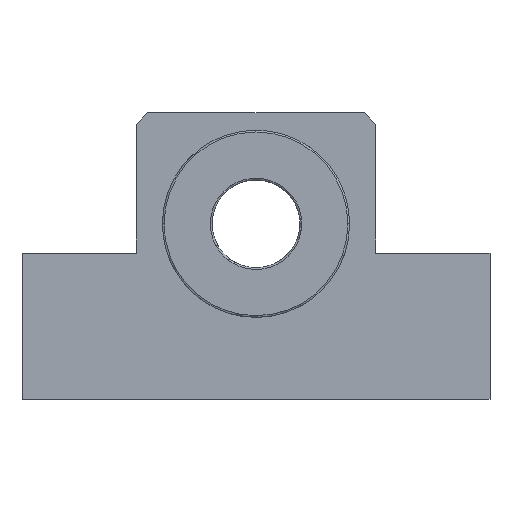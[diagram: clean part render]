
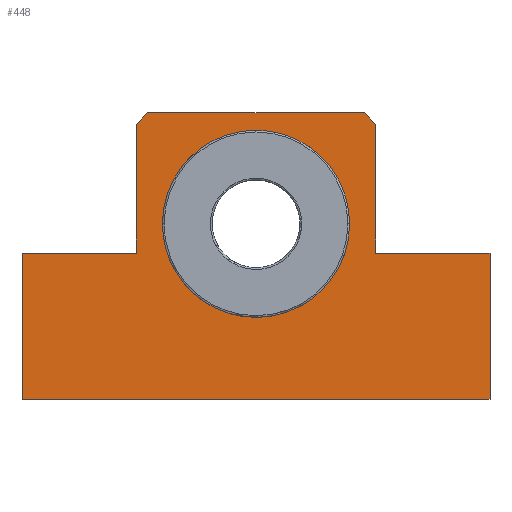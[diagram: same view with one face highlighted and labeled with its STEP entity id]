
A CAD part, left-side view. The second image highlights one B-rep face of the part: STEP entity #448.
In plain terms, the highlighted planar face has unit normal (-1, 0, 0).
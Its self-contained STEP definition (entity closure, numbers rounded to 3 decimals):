
#156=CARTESIAN_POINT('Vertex',(-10.,-40.,-30.)) ;
#161=CARTESIAN_POINT('Line Origine',(-10.,0.,-30.)) ;
#165=CARTESIAN_POINT('Vertex',(-10.,40.,-30.)) ;
#260=CARTESIAN_POINT('Vertex',(-10.,40.,-5.)) ;
#265=CARTESIAN_POINT('Line Origine',(-10.,30.25,-5.)) ;
#269=CARTESIAN_POINT('Vertex',(-10.,20.5,-5.)) ;
#304=CARTESIAN_POINT('Vertex',(-10.,-40.,-5.)) ;
#309=CARTESIAN_POINT('Line Origine',(-10.,-40.,-17.5)) ;
#326=CARTESIAN_POINT('Axis2P3D Location',(-10.,0.,0.)) ;
#331=CARTESIAN_POINT('Line Origine',(-10.,-19.5,18.)) ;
#335=CARTESIAN_POINT('Vertex',(-10.,-18.5,19.)) ;
#337=CARTESIAN_POINT('Vertex',(-10.,-20.5,17.)) ;
#340=CARTESIAN_POINT('Line Origine',(-10.,0.,19.)) ;
#344=CARTESIAN_POINT('Vertex',(-10.,18.5,19.)) ;
#347=CARTESIAN_POINT('Line Origine',(-10.,19.5,18.)) ;
#351=CARTESIAN_POINT('Vertex',(-10.,20.5,17.)) ;
#354=CARTESIAN_POINT('Line Origine',(-10.,20.5,6.)) ;
#359=CARTESIAN_POINT('Line Origine',(-10.,40.,-17.5)) ;
#364=CARTESIAN_POINT('Line Origine',(-10.,-30.25,-5.)) ;
#368=CARTESIAN_POINT('Vertex',(-10.,-20.5,-5.)) ;
#371=CARTESIAN_POINT('Line Origine',(-10.,-20.5,6.)) ;
#389=CARTESIAN_POINT('Control Point',(-10.,-14.041,7.671)) ;
#390=CARTESIAN_POINT('Control Point',(-10.,-13.29,9.047)) ;
#391=CARTESIAN_POINT('Control Point',(-10.,-12.37,10.33)) ;
#392=CARTESIAN_POINT('Control Point',(-10.,-11.296,11.494)) ;
#393=CARTESIAN_POINT('Control Point',(-10.,-8.886,13.536)) ;
#394=CARTESIAN_POINT('Control Point',(-10.,-6.054,14.936)) ;
#395=CARTESIAN_POINT('Control Point',(-10.,-4.559,15.458)) ;
#396=CARTESIAN_POINT('Control Point',(-10.,-1.471,16.125)) ;
#397=CARTESIAN_POINT('Control Point',(-10.,1.686,16.028)) ;
#398=CARTESIAN_POINT('Control Point',(-10.,3.251,15.785)) ;
#399=CARTESIAN_POINT('Control Point',(-10.,6.289,14.921)) ;
#400=CARTESIAN_POINT('Control Point',(-10.,9.029,13.349)) ;
#401=CARTESIAN_POINT('Control Point',(-10.,10.296,12.399)) ;
#402=CARTESIAN_POINT('Control Point',(-10.,12.57,10.207)) ;
#403=CARTESIAN_POINT('Control Point',(-10.,14.248,7.531)) ;
#404=CARTESIAN_POINT('Control Point',(-10.,14.919,6.096)) ;
#405=CARTESIAN_POINT('Control Point',(-10.,15.894,3.091)) ;
#406=CARTESIAN_POINT('Control Point',(-10.,16.116,-0.06)) ;
#407=CARTESIAN_POINT('Control Point',(-10.,16.032,-1.641)) ;
#408=CARTESIAN_POINT('Control Point',(-10.,15.642,-3.838)) ;
#409=CARTESIAN_POINT('Control Point',(-10.,14.885,-5.922)) ;
#410=CARTESIAN_POINT('Control Point',(-10.,14.633,-6.519)) ;
#411=CARTESIAN_POINT('Control Point',(-10.,14.352,-7.103)) ;
#412=CARTESIAN_POINT('Control Point',(-10.,14.041,-7.671)) ;
#413=CARTESIAN_POINT('Vertex',(-10.,14.041,-7.671)) ;
#415=CARTESIAN_POINT('Vertex',(-10.,-14.041,7.671)) ;
#419=CARTESIAN_POINT('Control Point',(-10.,14.041,-7.671)) ;
#420=CARTESIAN_POINT('Control Point',(-10.,13.29,-9.047)) ;
#421=CARTESIAN_POINT('Control Point',(-10.,12.37,-10.33)) ;
#422=CARTESIAN_POINT('Control Point',(-10.,11.296,-11.494)) ;
#423=CARTESIAN_POINT('Control Point',(-10.,8.886,-13.536)) ;
#424=CARTESIAN_POINT('Control Point',(-10.,6.054,-14.936)) ;
#425=CARTESIAN_POINT('Control Point',(-10.,4.559,-15.458)) ;
#426=CARTESIAN_POINT('Control Point',(-10.,1.471,-16.125)) ;
#427=CARTESIAN_POINT('Control Point',(-10.,-1.686,-16.028)) ;
#428=CARTESIAN_POINT('Control Point',(-10.,-3.251,-15.785)) ;
#429=CARTESIAN_POINT('Control Point',(-10.,-6.289,-14.921)) ;
#430=CARTESIAN_POINT('Control Point',(-10.,-9.029,-13.349)) ;
#431=CARTESIAN_POINT('Control Point',(-10.,-10.296,-12.399)) ;
#432=CARTESIAN_POINT('Control Point',(-10.,-12.57,-10.207)) ;
#433=CARTESIAN_POINT('Control Point',(-10.,-14.248,-7.531)) ;
#434=CARTESIAN_POINT('Control Point',(-10.,-14.919,-6.096)) ;
#435=CARTESIAN_POINT('Control Point',(-10.,-15.894,-3.091)) ;
#436=CARTESIAN_POINT('Control Point',(-10.,-16.116,0.06)) ;
#437=CARTESIAN_POINT('Control Point',(-10.,-16.032,1.641)) ;
#438=CARTESIAN_POINT('Control Point',(-10.,-15.642,3.838)) ;
#439=CARTESIAN_POINT('Control Point',(-10.,-14.885,5.922)) ;
#440=CARTESIAN_POINT('Control Point',(-10.,-14.633,6.519)) ;
#441=CARTESIAN_POINT('Control Point',(-10.,-14.352,7.103)) ;
#442=CARTESIAN_POINT('Control Point',(-10.,-14.041,7.671)) ;
#162=DIRECTION('Vector Direction',(0.,-1.,0.)) ;
#266=DIRECTION('Vector Direction',(0.,1.,0.)) ;
#310=DIRECTION('Vector Direction',(0.,0.,1.)) ;
#327=DIRECTION('Axis2P3D Direction',(1.,0.,0.)) ;
#328=DIRECTION('Axis2P3D XDirection',(0.,1.,0.)) ;
#332=DIRECTION('Vector Direction',(0.,-0.707,-0.707)) ;
#341=DIRECTION('Vector Direction',(0.,1.,0.)) ;
#348=DIRECTION('Vector Direction',(0.,0.707,-0.707)) ;
#355=DIRECTION('Vector Direction',(0.,0.,-1.)) ;
#360=DIRECTION('Vector Direction',(0.,0.,-1.)) ;
#365=DIRECTION('Vector Direction',(0.,1.,0.)) ;
#372=DIRECTION('Vector Direction',(0.,0.,1.)) ;
#329=AXIS2_PLACEMENT_3D('Plane Axis2P3D',#326,#327,#328) ;
#377=ORIENTED_EDGE('',*,*,#339,.F.) ;
#378=ORIENTED_EDGE('',*,*,#346,.F.) ;
#379=ORIENTED_EDGE('',*,*,#353,.F.) ;
#380=ORIENTED_EDGE('',*,*,#358,.F.) ;
#381=ORIENTED_EDGE('',*,*,#271,.F.) ;
#382=ORIENTED_EDGE('',*,*,#363,.F.) ;
#383=ORIENTED_EDGE('',*,*,#167,.F.) ;
#384=ORIENTED_EDGE('',*,*,#313,.F.) ;
#385=ORIENTED_EDGE('',*,*,#370,.F.) ;
#386=ORIENTED_EDGE('',*,*,#375,.F.) ;
#445=ORIENTED_EDGE('',*,*,#417,.T.) ;
#446=ORIENTED_EDGE('',*,*,#443,.T.) ;
#447=FACE_BOUND('',#444,.T.) ;
#163=VECTOR('Line Direction',#162,1.) ;
#267=VECTOR('Line Direction',#266,1.) ;
#311=VECTOR('Line Direction',#310,1.) ;
#333=VECTOR('Line Direction',#332,1.) ;
#342=VECTOR('Line Direction',#341,1.) ;
#349=VECTOR('Line Direction',#348,1.) ;
#356=VECTOR('Line Direction',#355,1.) ;
#361=VECTOR('Line Direction',#360,1.) ;
#366=VECTOR('Line Direction',#365,1.) ;
#373=VECTOR('Line Direction',#372,1.) ;
#448=ADVANCED_FACE('EF15(H)',(#387,#447),#330,.F.) ;
#388=B_SPLINE_CURVE_WITH_KNOTS('',5,(#389,#390,#391,#392,#393,#394,#395,#396,#397,#398,#399,#400,#401,#402,#403,#404,#405,#406,#407,#408,#409,#410,#411,#412),.UNSPECIFIED.,.F.,.U.,(6,3,3,3,3,3,3,6),(0.,11.085,22.17,33.255,44.34,55.425,66.51,71.085),.UNSPECIFIED.) ;
#418=B_SPLINE_CURVE_WITH_KNOTS('',5,(#419,#420,#421,#422,#423,#424,#425,#426,#427,#428,#429,#430,#431,#432,#433,#434,#435,#436,#437,#438,#439,#440,#441,#442),.UNSPECIFIED.,.F.,.U.,(6,3,3,3,3,3,3,6),(0.,11.085,22.17,33.255,44.34,55.425,66.51,71.085),.UNSPECIFIED.) ;
#167=EDGE_CURVE('',#157,#166,#164,.F.) ;
#271=EDGE_CURVE('',#261,#270,#268,.F.) ;
#313=EDGE_CURVE('',#305,#157,#312,.F.) ;
#339=EDGE_CURVE('',#336,#338,#334,.T.) ;
#346=EDGE_CURVE('',#345,#336,#343,.F.) ;
#353=EDGE_CURVE('',#352,#345,#350,.F.) ;
#358=EDGE_CURVE('',#270,#352,#357,.F.) ;
#363=EDGE_CURVE('',#166,#261,#362,.F.) ;
#370=EDGE_CURVE('',#369,#305,#367,.F.) ;
#375=EDGE_CURVE('',#338,#369,#374,.F.) ;
#417=EDGE_CURVE('',#414,#416,#388,.F.) ;
#443=EDGE_CURVE('',#416,#414,#418,.F.) ;
#376=EDGE_LOOP('',(#377,#378,#379,#380,#381,#382,#383,#384,#385,#386)) ;
#444=EDGE_LOOP('',(#445,#446)) ;
#387=FACE_OUTER_BOUND('',#376,.T.) ;
#164=LINE('Line',#161,#163) ;
#268=LINE('Line',#265,#267) ;
#312=LINE('Line',#309,#311) ;
#334=LINE('Line',#331,#333) ;
#343=LINE('Line',#340,#342) ;
#350=LINE('Line',#347,#349) ;
#357=LINE('Line',#354,#356) ;
#362=LINE('Line',#359,#361) ;
#367=LINE('Line',#364,#366) ;
#374=LINE('Line',#371,#373) ;
#330=PLANE('Plane',#329) ;
#157=VERTEX_POINT('',#156) ;
#166=VERTEX_POINT('',#165) ;
#261=VERTEX_POINT('',#260) ;
#270=VERTEX_POINT('',#269) ;
#305=VERTEX_POINT('',#304) ;
#336=VERTEX_POINT('',#335) ;
#338=VERTEX_POINT('',#337) ;
#345=VERTEX_POINT('',#344) ;
#352=VERTEX_POINT('',#351) ;
#369=VERTEX_POINT('',#368) ;
#414=VERTEX_POINT('',#413) ;
#416=VERTEX_POINT('',#415) ;
